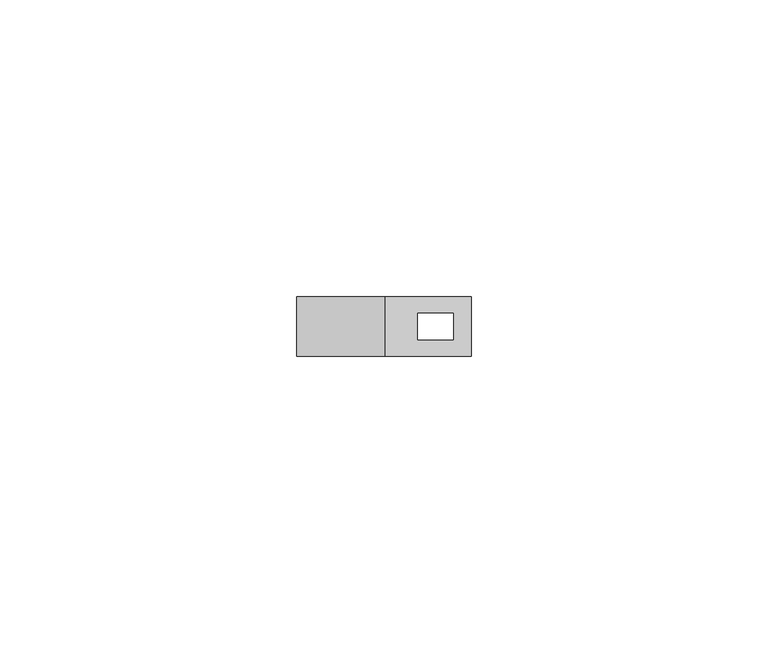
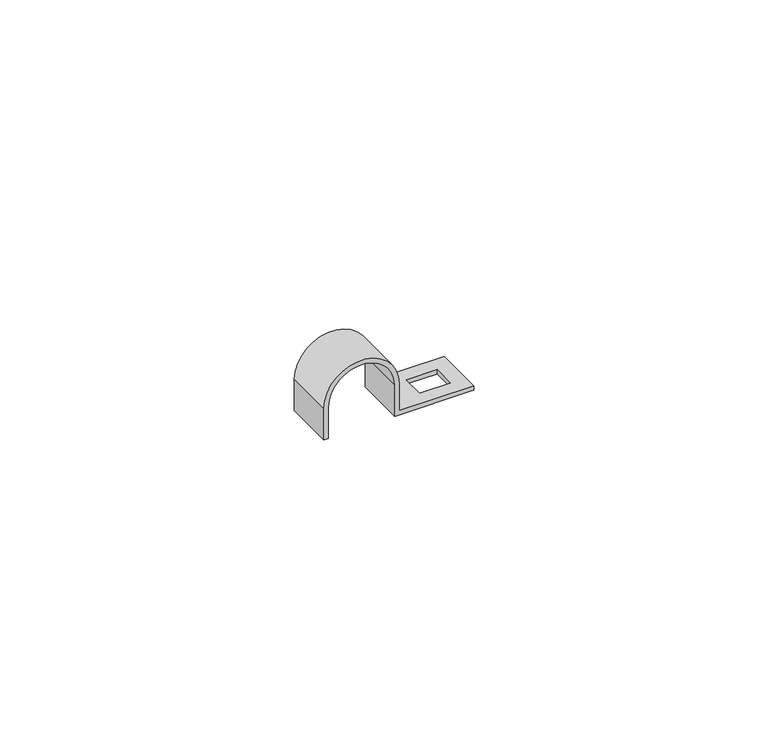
"""IFC4 building model written with IfcOpenShell, lengths in millimetres: cable carrier fitting geometry."""

from ifc_helpers import new_model, si_unit, frame, origin, place, context, project, spatial, polyline, circle_curve, source, transform, mapped, element, save
from ifc_brep_helpers import plane_surface, cylinder_surface, revolved_surface, advanced_brep


def cable_carrier_fitting_0106e0a8(model_context):
    return source(origin(), model_context, "Body", "AdvancedBrep", [
        advanced_brep(
        [(22.0, -5.0, 0.0), (22.0, -5.0, 0.9), (7.4, -5.0, 0.9), (7.4, -5.0, 6.5), (-7.4, -5.0, 6.5), (-7.4, -5.0, 0.0), (-6.5, -5.0, 0.0), (-6.5, -5.0, 6.5), (6.5, -5.0, 6.5), (6.5, -5.0, 0.0), (22.0, 5.0, 0.0), (6.5, 5.0, 0.0), (6.5, 5.0, 6.5), (-6.5, 5.0, 6.5), (-6.5, 5.0, 0.0), (-7.4, 5.0, 0.0), (-7.4, 5.0, 6.5), (7.4, 5.0, 6.5), (7.4, 5.0, 0.9), (22.0, 5.0, 0.9), (19.0, -2.25, 0.9), (13.0, -2.25, 0.9), (13.0, 2.25, 0.9), (19.0, 2.25, 0.9), (13.0, -2.25, 0.0), (19.0, -2.25, 0.0), (19.0, 2.25, 0.0), (13.0, 2.25, 0.0)],
        [
            (0, 1),
            (1, 2),
            (2, 3),
            (3, 4, circle_curve(frame((0.0, -5.0, 6.5), z_axis=(0.0, -1.0, 0.0), x_axis=(1.0, 0.0, 0.0)), 7.4)),
            (4, 5),
            (5, 6),
            (6, 7),
            (7, 8, circle_curve(frame((0.0, -5.0, 6.5), z_axis=(0.0, 1.0, 0.0), x_axis=(1.0, 0.0, 0.0)), 6.5)),
            (8, 9),
            (9, 0),
            (10, 11),
            (11, 12),
            (12, 13, circle_curve(frame((0.0, 5.0, 6.5), z_axis=(0.0, -1.0, 0.0), x_axis=(1.0, 0.0, 0.0)), 6.5)),
            (13, 14),
            (14, 15),
            (15, 16),
            (16, 17, circle_curve(frame((0.0, 5.0, 6.5), z_axis=(0.0, 1.0, 0.0), x_axis=(1.0, 0.0, 0.0)), 7.4)),
            (17, 18),
            (18, 19),
            (19, 10),
            (0, 10),
            (19, 1),
            (18, 2),
            (20, 21),
            (21, 22),
            (22, 23),
            (23, 20),
            (17, 3),
            (16, 4),
            (15, 5),
            (14, 6),
            (13, 7),
            (12, 8),
            (11, 9),
            (24, 25),
            (25, 26),
            (26, 27),
            (27, 24),
            (24, 21),
            (20, 25),
            (23, 26),
            (22, 27),
        ],
        [
            plane_surface(frame((22.0, -5.0, 0.9), z_axis=(0.0, -1.0, 0.0), x_axis=(0.0, 0.0, 1.0))),
            plane_surface(frame((22.0, 5.0, 0.9), z_axis=(0.0, 1.0, 0.0), x_axis=(0.0, 0.0, -1.0))),
            plane_surface(frame((22.0, -5.0, 0.0), z_axis=(1.0, 0.0, 0.0), x_axis=(0.0, 1.0, 0.0))),
            plane_surface(frame((22.0, -5.0, 0.9), z_axis=(0.0, 0.0, 1.0), x_axis=(0.0, 1.0, 0.0))),
            plane_surface(frame((7.4, -5.0, 0.9), z_axis=(1.0, 0.0, 0.0), x_axis=(0.0, 1.0, 0.0))),
            cylinder_surface(frame((0.0, 5.0, 6.5), z_axis=(0.0, -1.0, 0.0), x_axis=(1.0, 0.0, 0.0)), 7.4),
            plane_surface(frame((-7.4, -5.0, 6.5), z_axis=(-1.0, 0.0, 0.0), x_axis=(0.0, 1.0, 0.0))),
            plane_surface(frame((-7.4, -5.0, 0.0), z_axis=(0.0, 0.0, -1.0), x_axis=(0.0, 1.0, 0.0))),
            plane_surface(frame((-6.5, -5.0, 0.0), z_axis=(1.0, 0.0, 0.0), x_axis=(0.0, 1.0, 0.0))),
            revolved_surface(polyline([(6.5, 5.0, 6.5), (6.5, -5.0, 6.5)]), (0.0, 5.0, 6.5), (0.0, 1.0, 0.0)),
            plane_surface(frame((6.5, -5.0, 6.5), z_axis=(-1.0, 0.0, 0.0), x_axis=(0.0, 1.0, 0.0))),
            plane_surface(frame((6.5, -5.0, 0.0), z_axis=(0.0, 0.0, -1.0), x_axis=(0.0, 1.0, 0.0))),
            plane_surface(frame((13.0, -2.25, 21.959409), z_axis=(0.0, 1.0, 0.0), x_axis=(0.0, 0.0, -1.0))),
            plane_surface(frame((19.0, -2.25, 21.959409), z_axis=(-1.0, 0.0, 0.0), x_axis=(0.0, 0.0, -1.0))),
            plane_surface(frame((19.0, 2.25, 21.959409), z_axis=(0.0, -1.0, 0.0), x_axis=(0.0, 0.0, -1.0))),
            plane_surface(frame((13.0, 2.25, 21.959409), z_axis=(1.0, 0.0, 0.0), x_axis=(0.0, 0.0, -1.0))),
        ],
        [
            (0, [[1, 2, 3, 4, 5, 6, 7, 8, 9, 10]]),
            (1, [[11, 12, 13, 14, 15, 16, 17, 18, 19, 20]]),
            (2, [[-1, 21, -20, 22]]),
            (3, [[-2, -22, -19, 23], [24, 25, 26, 27]]),
            (4, [[-3, -23, -18, 28]]),
            (5, [[-4, -28, -17, 29]]),
            (6, [[-5, -29, -16, 30]]),
            (7, [[-6, -30, -15, 31]]),
            (8, [[-7, -31, -14, 32]]),
            (9, [[-8, -32, -13, 33]]),
            (10, [[-9, -33, -12, 34]]),
            (11, [[-10, -34, -11, -21], [35, 36, 37, 38]]),
            (12, [[39, -24, 40, -35]]),
            (13, [[-40, -27, 41, -36]]),
            (14, [[-41, -26, 42, -37]]),
            (15, [[-39, -38, -42, -25]]),
        ],
    ),
    ])


if __name__ == "__main__":
    model = new_model("IFC4")
    model_context = context("Model", 3, world=origin())
    ifc_project = project(units=[si_unit("LENGTHUNIT", "METRE", prefix="MILLI")], contexts=[model_context])
    site = spatial("IfcSite", under=ifc_project)
    building = spatial("IfcBuilding", under=site)
    placement = place(None, origin())
    cable_carrier_fitting_shape = cable_carrier_fitting_0106e0a8(model_context)
    element("IfcCableCarrierFitting", 1, at=placement, inside=building, context=model_context, shape_type="MappedRepresentation", body=[
        mapped(cable_carrier_fitting_shape, transform((0.0, 0.0, 0.0), x_axis=(1.0, 0.0, 0.0), y_axis=(0.0, 1.0, 0.0), z_axis=(0.0, 0.0, 1.0))),
    ])
    save(model, "model.ifc")
